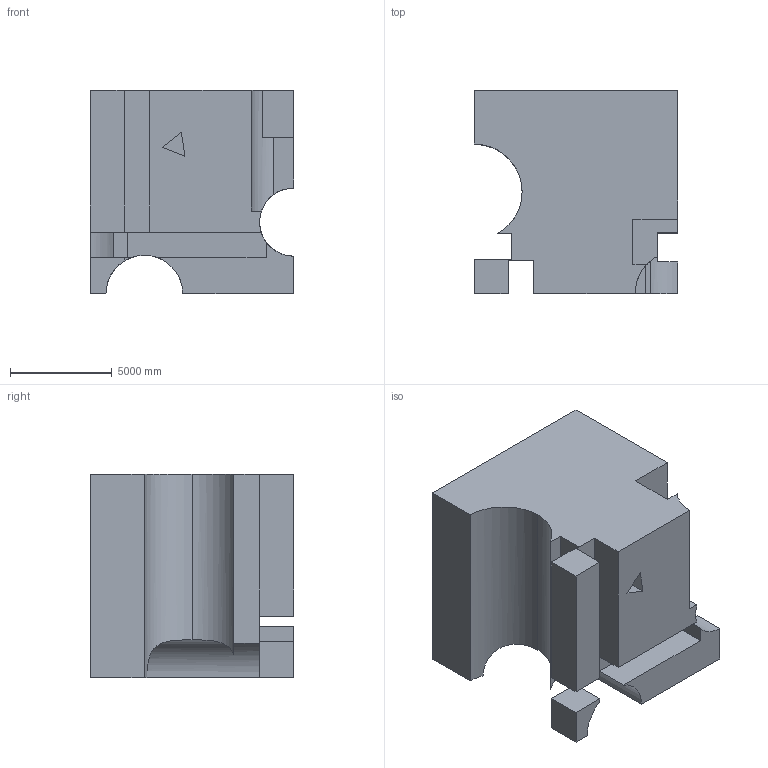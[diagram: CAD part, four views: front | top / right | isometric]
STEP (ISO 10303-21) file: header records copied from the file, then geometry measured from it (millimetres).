
FILE_DESCRIPTION (( 'STEP AP203' ), '1' );
FILE_NAME ('384.STEP', '2022-09-07T13:24:48', ( 'user' ), ( '' ), 'SwSTEP 2.0', 'SolidWorks 2021', '' );
FILE_SCHEMA (( 'CONFIG_CONTROL_DESIGN' ));
Length unit declared in the file: centimetre
Products named in the file (1): 384
Bounding box: 10000 x 10000 x 10000 mm (x, y, z)
Volume: 732211014897.7 mm3; surface area: 671001112.1 mm2
Topology: 1 solids, 1 shells, 49 faces, 136 edges, 90 vertices
Faces by surface type: plane 43, cylinder 6
Entity records: 1816 total; most frequent: CARTESIAN_POINT 465, ORIENTED_EDGE 272, DIRECTION 255, EDGE_CURVE 136, VECTOR 111, LINE 111, VERTEX_POINT 90, AXIS2_PLACEMENT_3D 72
